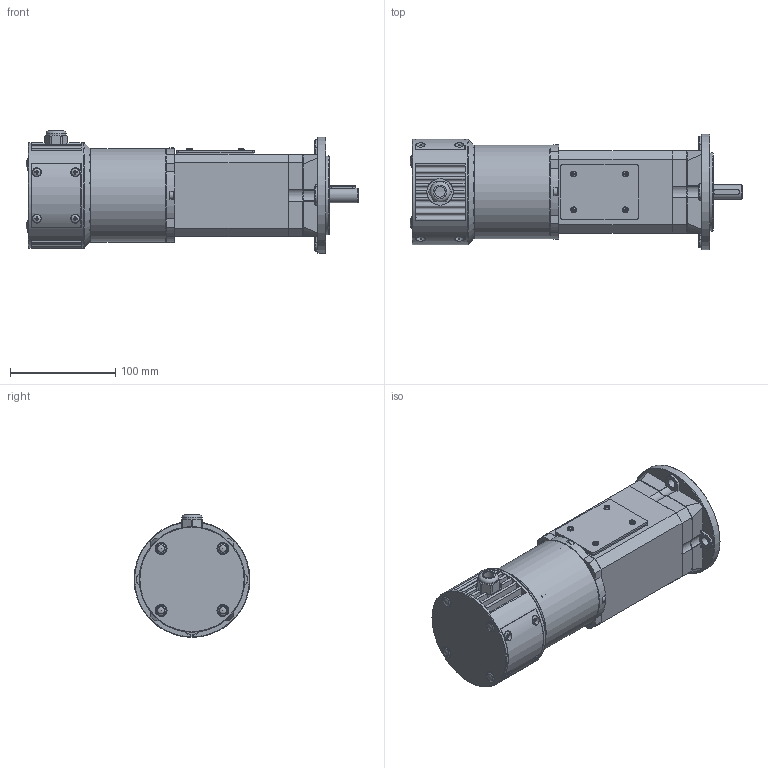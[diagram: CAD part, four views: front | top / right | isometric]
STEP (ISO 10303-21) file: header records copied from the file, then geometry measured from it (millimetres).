
FILE_DESCRIPTION(/* description */ ('Vite a testa cilindrica'),/* implementation_level */ '2;1');
FILE_NAME(/* name */ 'C:\Users\giuseppe.caruso.MINIMOTOR\Desktop\PAC MP3N 10,27 B5.stp',/* time_stamp */ '2014-10-14T17:09:57+02:00',/* author */ ('giuseppe.caruso'),/* organization */ (''),/* preprocessor_version */ 'ST-DEVELOPER v15.6',/* originating_system */ 'Autodesk Inventor 2015',/* authorisation */ '');
FILE_SCHEMA (('CONFIG_CONTROL_DESIGN'));
Length unit declared in the file: millimetre
Products named in the file (46): VCE530Z; VTC306; VCE420; VTC408; VCE412; SPN010; SRD020; CPR011; CUR008-5; CUR008-4; CUR008-3; CUR008-2; CUR008-1; CUR008; ING224; CUS017-9; CUS017-8; CUS017-7; CUS017-6; CUS017-5; CUS017-4; CUS017-3; CUS017-2; CUS017-1; CUS017; CRT013; ASA017; ASF047; OR001; CHI005; CPR011Z19; GRN016; TPP009; TRG072; STT033; MGN001S; MGN001N; STT033C; CUF045; CUF055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
Assembly tree (73 placements, depth 4):
  PAC MP3N 10,27 B5
    VCE530Z  x4
    VTC306  x4
    VCE420  x4
    VTC408  x8
    VCE412  x8
    SPN010
    SRD020
    CPR011Z19
      CPR011
      CUR008
        CUR008-5
        CUR008-4
        CUR008-3
        CUR008-2
        CUR008-1
      ING224
      CUS017
        CUS017-9
        CUS017-8
        CUS017-7
        CUS017-6
        CUS017-5
        CUS017-4
        CUS017-3
        CUS017-2
        CUS017-1
      CRT013
      ASA017
      ASF047
      OR001
      CHI005
    GRN016
    TPP009
    TRG072
    STT033C
      STT033
      MGN001S
      MGN001N
    CUF045
    CUF055
    GRN025  x2
    CUF051-CSA  x2
    BOC001
    TPP008  x4
    FLG010
Bounding box: 315 x 110 x 116.5 mm (x, y, z)
Volume: 886846.5 mm3; surface area: 366811.3 mm2
Topology: 76 solids, 76 shells, 2672 faces, 6823 edges, 4431 vertices
Faces by surface type: plane 1450, cylinder 761, cone 322, torus 115, sphere 24
Full cylindrical faces by diameter (mm): 1.6 x1, 1.7 x2, 2.1 x4, 2.459 x5, 2.5 x2, 2.6 x1, 2.729 x4, 3 x6, 3.242 x29, 3.5 x8, 4 x35, 4.134 x9, 4.2 x4, 4.5 x24, 5 x4, 5.5 x8, 6.647 x1, 6.85 x4, 7 x12, 7.5 x4, 7.6 x1, 8 x8, 8.4 x4, 8.5 x22, 9 x4, 9.85 x4, 10 x7, 12 x12, 14 x1, 14.376 x1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
Entity records: 55959 total; most frequent: CARTESIAN_POINT 11362, DIRECTION 9223, ORIENTED_EDGE 8362, EDGE_CURVE 4181, AXIS2_PLACEMENT_3D 3363, VERTEX_POINT 2927, LINE 2497, VECTOR 2497
